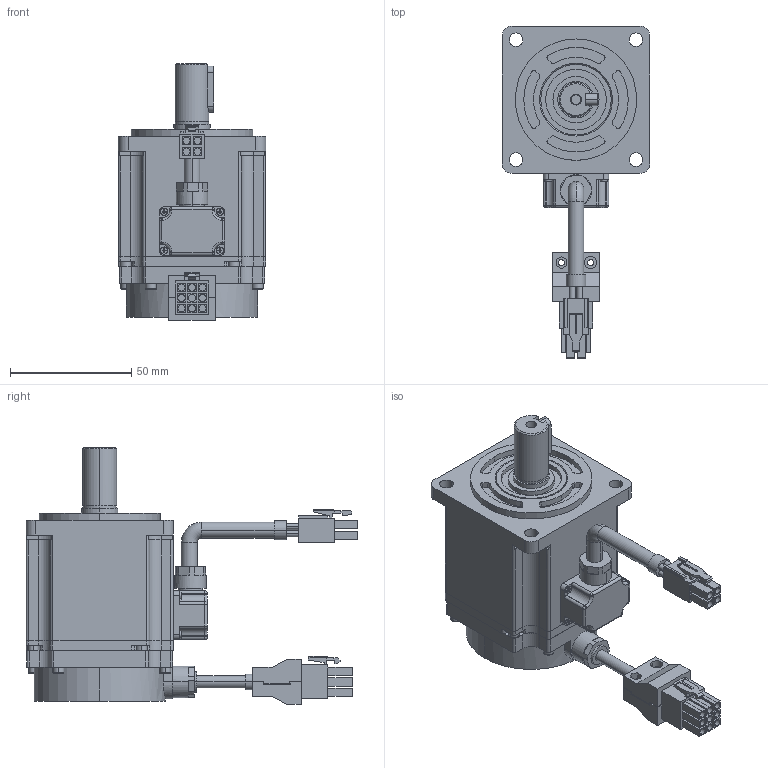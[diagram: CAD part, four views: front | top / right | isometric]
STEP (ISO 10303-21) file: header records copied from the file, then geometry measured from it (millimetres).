
FILE_DESCRIPTION (( 'STEP AP203' ), '1' );
FILE_NAME ('60SS20.STEP', '2023-04-07T06:24:16', ( '' ), ( '' ), 'SwSTEP 2.0', 'SolidWorks 2020', '' );
FILE_SCHEMA (( 'CONFIG_CONTROL_DESIGN' ));
Length unit declared in the file: millimetre
Products named in the file (8): 60SS20;  60X6ST-C01330 晤鎢盄^60SS20; hexagon socket head cap screws gb_GB_FASTENER_SCREWS_HSHCS M2.5X4-N; 綴裔^60SS20; 60X6ST-C01330 萇儂盄; cross recessed cheese head screws type a gb_GB_CROSS_SCREWS_TYPE135 M2X2.5-N; 60SS20隅赽^60SS20; ﾖ畤60SS20
Assembly tree (17 placements, depth 2):
  60SS20
    60SS20隅赽^60SS20
    綴裔^60SS20
     60X6ST-C01330 晤鎢盄^60SS20
    ﾖ畤60SS20
    60X6ST-C01330 萇儂盄
    cross recessed cheese head screws type a gb_GB_CROSS_SCREWS_TYPE135 M2X2.5-N  x4
    hexagon socket head cap screws gb_GB_FASTENER_SCREWS_HSHCS M2.5X4-N  x8
Bounding box: 60.7 x 136.74 x 105.75 mm (x, y, z)
Volume: 262962.8 mm3; surface area: 54661.1 mm2
Topology: 18 solids, 18 shells, 921 faces, 2333 edges, 1496 vertices
Faces by surface type: plane 533, cylinder 298, cone 52, torus 30, sphere 8
Entity records: 21706 total; most frequent: DIRECTION 3662, CARTESIAN_POINT 3657, ORIENTED_EDGE 3442, EDGE_CURVE 1721, AXIS2_PLACEMENT_3D 1266, VECTOR 1130, LINE 1130, VERTEX_POINT 1127
